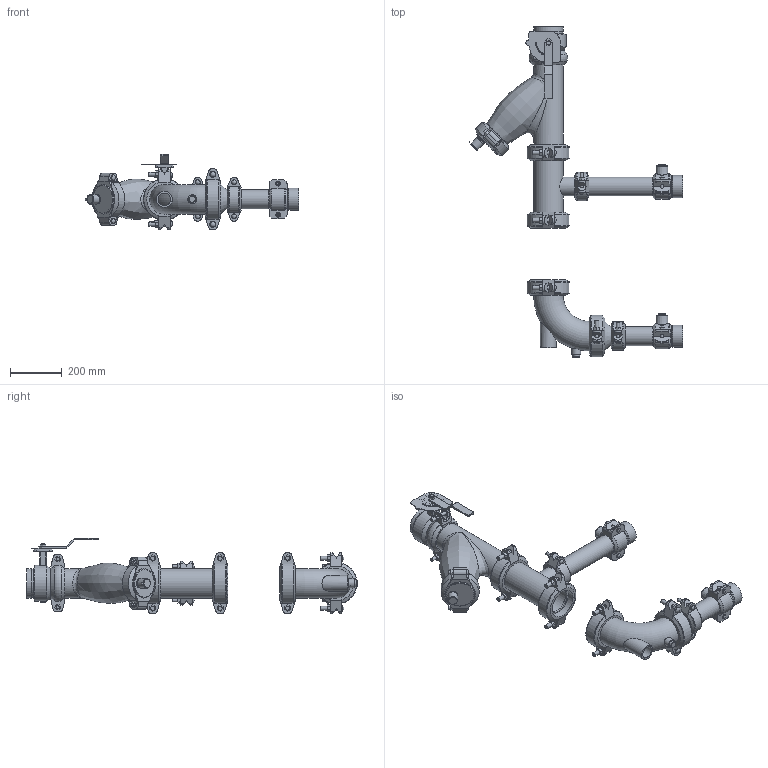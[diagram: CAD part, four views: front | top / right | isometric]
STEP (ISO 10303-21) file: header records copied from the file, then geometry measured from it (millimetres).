
FILE_DESCRIPTION(/* description */ ('VIC SVI DOUBLE COIL AHU DROP LOW PROFILE SERIES 385H (OGSxFPT)','CAx-IF Rec.Pracs.---Representation and Presentation of Product Manufacturing Information (PMI)---4.0---2014-10-13'),/* implementation_level */ '2;1');
FILE_NAME(/* name */ 'C:\Users\Vjadhav\AppData\Roaming\Autodesk\ApplicationPlugins\Victaulic.Temp\A526\Victaulic_IPS_SVI_Double Coil_Low Profile_Series 385H (OGSxFPT)_04.0x02.5 (100x65).stp',/* time_stamp */ '2021-03-17T15:41:37+05:00',/* author */ ('Vjadhav'),/* organization */ ('Victaulic'),/* preprocessor_version */ 'ST-DEVELOPER v17.2',/* originating_system */ 'Autodesk Inventor 2019',/* authorisation */ '');
FILE_SCHEMA (('AP242_MANAGED_MODEL_BASED_3D_ENGINEERING_MIM_LF { 1 0 10303 442 1 1 4 }'));
Length unit declared in the file: inch
Products named in the file (16): 385H-04.0x02.5; Pipe_1-02.5; 050-04.0x02.5; 025-04.0x02.5; 177N-04.0; 732-04.0; 732-04.0_1; 07-04.0; 732-04.0_2; 107N-04.0; 761-04.0; 177N-02.5; Pipe_(11 1/8")-02.5; 072-02.5x0.75; 080-02.5; 100G-04.0
Assembly tree (21 placements, depth 3):
  385H-04.0x02.5
    080-02.5  x2
    072-02.5x0.75  x2
    Pipe_1-02.5
    177N-02.5  x2
    050-04.0x02.5
    177N-04.0  x4
    025-04.0x02.5
    732-04.0
      732-04.0_1
      07-04.0
      732-04.0_2
    107N-04.0
    761-04.0
    Pipe_(11 1/8")-02.5
    100G-04.0
Bounding box: 827.31 x 1277.87 x 293.57 mm (x, y, z)
Volume: 10005858.9 mm3; surface area: 2195573.7 mm2
Topology: 20 solids, 23 shells, 1208 faces, 3255 edges, 2176 vertices
Faces by surface type: plane 663, cylinder 400, torus 54, cone 47, bspline 28, sphere 16
Full cylindrical faces by diameter (mm): 4.826 x10, 8.636 x4, 10.16 x8, 12.7 x12, 14.605 x4, 14.986 x2, 15.875 x8, 17.78 x4, 19.05 x4, 20.93 x3, 22.225 x4, 22.86 x1, 23.495 x8, 25.4 x2, 26.67 x4, 33.401 x2, 34.29 x1, 35.941 x1, 37.211 x1, 48.26 x1, 55.118 x1, 60.325 x2, 60.96 x1, 62.713 x6, 69.088 x8, 73.025 x22, 85.725 x2, 95.25 x1, 98.831 x1, 99.06 x1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
Entity records: 28992 total; most frequent: CARTESIAN_POINT 8310, DIRECTION 4222, ORIENTED_EDGE 3946, EDGE_CURVE 1973, AXIS2_PLACEMENT_3D 1620, VERTEX_POINT 1332, LINE 982, VECTOR 982
